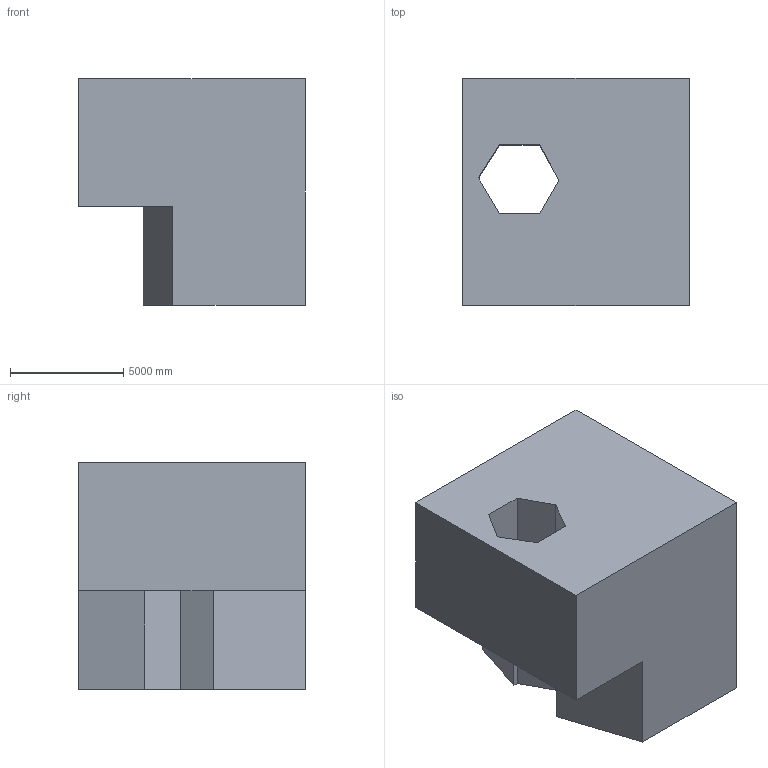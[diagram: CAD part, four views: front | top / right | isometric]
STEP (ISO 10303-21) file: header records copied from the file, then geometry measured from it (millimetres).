
FILE_DESCRIPTION (( 'STEP AP203' ), '1' );
FILE_NAME ('115.STEP', '2022-09-06T13:18:18', ( 'user' ), ( '' ), 'SwSTEP 2.0', 'SolidWorks 2021', '' );
FILE_SCHEMA (( 'CONFIG_CONTROL_DESIGN' ));
Length unit declared in the file: centimetre
Products named in the file (1): 115
Bounding box: 10000 x 10000 x 10000 mm (x, y, z)
Volume: 795918364956.4 mm3; surface area: 614186292.7 mm2
Topology: 1 solids, 1 shells, 15 faces, 42 edges, 28 vertices
Faces by surface type: plane 15
Entity records: 557 total; most frequent: CARTESIAN_POINT 86, ORIENTED_EDGE 84, DIRECTION 74, EDGE_CURVE 42, VECTOR 42, LINE 42, VERTEX_POINT 28, EDGE_LOOP 16
